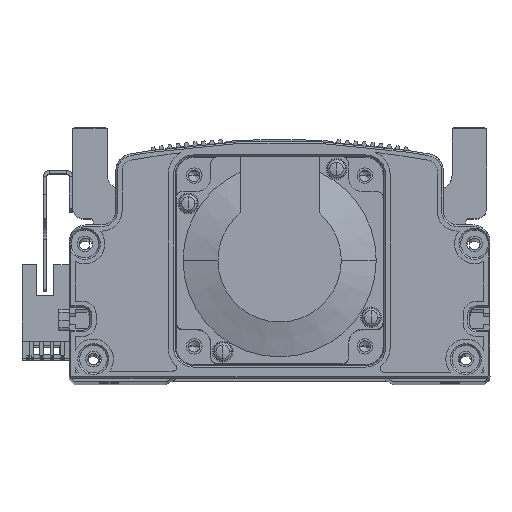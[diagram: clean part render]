
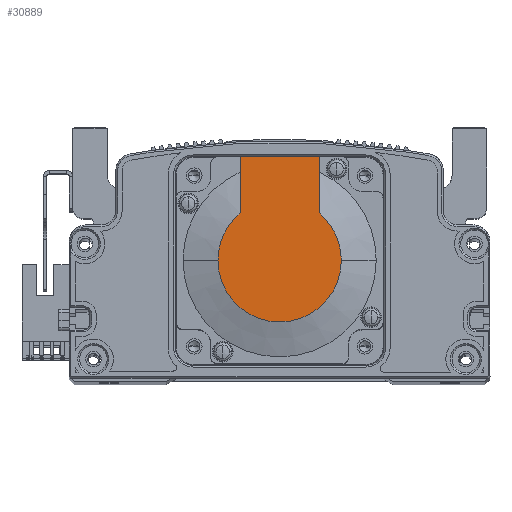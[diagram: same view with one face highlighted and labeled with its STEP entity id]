
A CAD part, top view. The second image highlights one B-rep face of the part: STEP entity #30889.
In plain terms, the highlighted planar face has unit normal (0, 0, 1) as drawn and (-1, 0, 0) by its records, which use the part's own axes.
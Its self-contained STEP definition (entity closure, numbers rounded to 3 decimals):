
#235 = CARTESIAN_POINT ( 'NONE',  ( -118.5, 13.735, 11.45 ) ) ;
#1467 = VERTEX_POINT ( 'NONE', #56483 ) ;
#1694 = DIRECTION ( 'NONE',  ( 0., 0., -1. ) ) ;
#1877 = DIRECTION ( 'NONE',  ( 0., -1., 0. ) ) ;
#2583 = EDGE_LOOP ( 'NONE', ( #48420, #60792, #10426, #13265, #5113, #36217 ) ) ;
#2985 = CARTESIAN_POINT ( 'NONE',  ( -118.5, 0., 0. ) ) ;
#3186 = EDGE_CURVE ( 'NONE', #56679, #58158, #37493, .T. ) ;
#3437 = CARTESIAN_POINT ( 'NONE',  ( -118.5, 0., 11.45 ) ) ;
#4000 = DIRECTION ( 'NONE',  ( -1., 0., 0. ) ) ;
#5113 = ORIENTED_EDGE ( 'NONE', *, *, #7516, .F. ) ;
#6092 = CIRCLE ( 'NONE', #23842, 17.881 ) ;
#7516 = EDGE_CURVE ( 'NONE', #32733, #63509, #26997, .T. ) ;
#7857 = AXIS2_PLACEMENT_3D ( 'NONE', #48152, #42351, #53499 ) ;
#7955 = DIRECTION ( 'NONE',  ( -1., 0., 0. ) ) ;
#8173 = DIRECTION ( 'NONE',  ( 0., 0., -1. ) ) ;
#10426 = ORIENTED_EDGE ( 'NONE', *, *, #39272, .T. ) ;
#11562 = CARTESIAN_POINT ( 'NONE',  ( -118.5, -8.941, -11.45 ) ) ;
#13265 = ORIENTED_EDGE ( 'NONE', *, *, #63783, .T. ) ;
#13353 = VECTOR ( 'NONE', #34482, 1000. ) ;
#17005 = FACE_OUTER_BOUND ( 'NONE', #2583, .T. ) ;
#23067 = CARTESIAN_POINT ( 'NONE',  ( -118.5, 0., 17.881 ) ) ;
#23842 = AXIS2_PLACEMENT_3D ( 'NONE', #52879, #62942, #1694 ) ;
#25149 = DIRECTION ( 'NONE',  ( 0., 0., 1. ) ) ;
#26997 = LINE ( 'NONE', #3437, #13353 ) ;
#27829 = VECTOR ( 'NONE', #1877, 1000. ) ;
#29732 = CARTESIAN_POINT ( 'NONE',  ( -118.5, 30., -11.45 ) ) ;
#30889 = ADVANCED_FACE ( 'NONE', ( #17005 ), #46013, .T. ) ;
#31552 = CIRCLE ( 'NONE', #7857, 17.881 ) ;
#32733 = VERTEX_POINT ( 'NONE', #55230 ) ;
#33353 = CARTESIAN_POINT ( 'NONE',  ( -118.5, 13.735, -11.45 ) ) ;
#34482 = DIRECTION ( 'NONE',  ( 0., -1., 0. ) ) ;
#36217 = ORIENTED_EDGE ( 'NONE', *, *, #66074, .F. ) ;
#37493 = LINE ( 'NONE', #11562, #27829 ) ;
#37620 = VERTEX_POINT ( 'NONE', #23067 ) ;
#38481 = VECTOR ( 'NONE', #57740, 1000. ) ;
#39272 = EDGE_CURVE ( 'NONE', #1467, #37620, #6092, .T. ) ;
#42351 = DIRECTION ( 'NONE',  ( -1., 0., 0. ) ) ;
#42498 = LINE ( 'NONE', #58179, #38481 ) ;
#45422 = CIRCLE ( 'NONE', #47727, 17.881 ) ;
#46013 = PLANE ( 'NONE',  #55167 ) ;
#47727 = AXIS2_PLACEMENT_3D ( 'NONE', #2985, #7955, #8173 ) ;
#48152 = CARTESIAN_POINT ( 'NONE',  ( -118.5, 0., 0. ) ) ;
#48420 = ORIENTED_EDGE ( 'NONE', *, *, #3186, .T. ) ;
#49414 = EDGE_CURVE ( 'NONE', #58158, #1467, #31552, .T. ) ;
#52879 = CARTESIAN_POINT ( 'NONE',  ( -118.5, 0., 0. ) ) ;
#53499 = DIRECTION ( 'NONE',  ( 0., 0., -1. ) ) ;
#55167 = AXIS2_PLACEMENT_3D ( 'NONE', #60570, #4000, #25149 ) ;
#55230 = CARTESIAN_POINT ( 'NONE',  ( -118.5, 30., 11.45 ) ) ;
#56483 = CARTESIAN_POINT ( 'NONE',  ( -118.5, 0., -17.881 ) ) ;
#56679 = VERTEX_POINT ( 'NONE', #29732 ) ;
#57740 = DIRECTION ( 'NONE',  ( 0., 0., 1. ) ) ;
#58158 = VERTEX_POINT ( 'NONE', #33353 ) ;
#58179 = CARTESIAN_POINT ( 'NONE',  ( -118.5, 30., 25. ) ) ;
#60570 = CARTESIAN_POINT ( 'NONE',  ( -118.5, -8.941, 0. ) ) ;
#60792 = ORIENTED_EDGE ( 'NONE', *, *, #49414, .T. ) ;
#62942 = DIRECTION ( 'NONE',  ( -1., 0., 0. ) ) ;
#63509 = VERTEX_POINT ( 'NONE', #235 ) ;
#63783 = EDGE_CURVE ( 'NONE', #37620, #63509, #45422, .T. ) ;
#66074 = EDGE_CURVE ( 'NONE', #56679, #32733, #42498, .T. ) ;
